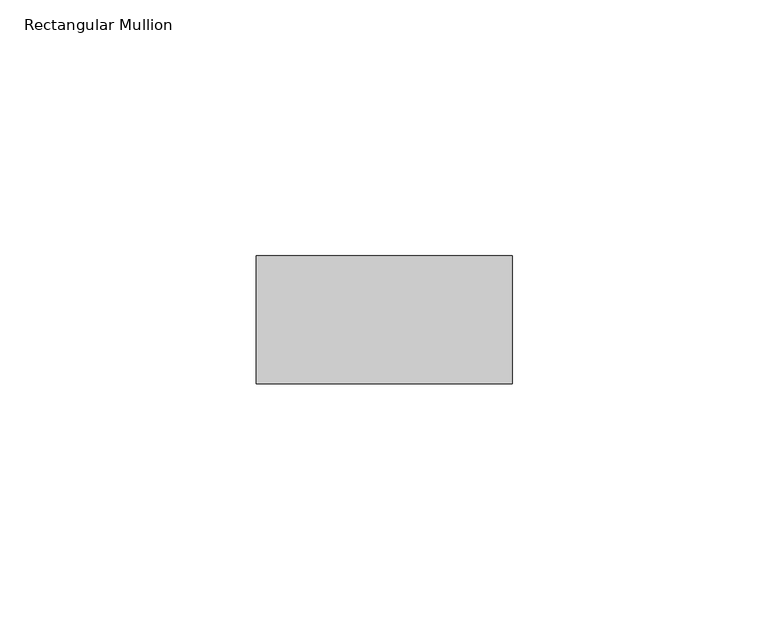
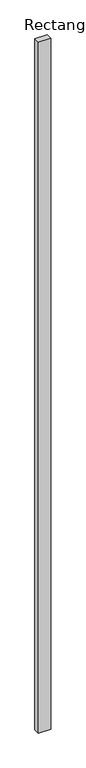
"""IFC4 building model written with IfcOpenShell, lengths in millimetres: member geometry, Rectangular Mullion : Batten_Aluminium_Modinex_AluBatten_50x25_AfricanEbony."""

from ifc_helpers import new_model, si_unit, frame, origin, place, context, project, spatial, polyline, outline, extrude, source, transform, mapped, element, save


def rectangular_mullion_114f6a8f(model_context):
    return source(origin(), model_context, "Body", "SweptSolid", [
        extrude(outline(polyline([(25.0, 25.0), (25.0, 0.0), (-25.0, 0.0), (-25.0, 25.0), (25.0, 25.0)])), frame((0.0, 0.0, -3000.0), z_axis=(0.0, 0.0, 1.0), x_axis=(1.0, 0.0, 0.0)), (0.0, 0.0, 1.0), 3000.0),
    ])


if __name__ == "__main__":
    model = new_model("IFC4")
    model_context = context("Model", 3, world=origin())
    ifc_project = project(units=[si_unit("LENGTHUNIT", "METRE", prefix="MILLI")], contexts=[model_context])
    site = spatial("IfcSite", under=ifc_project)
    building = spatial("IfcBuilding", under=site)
    placement = place(None, origin())
    rectangular_mullion_shape = rectangular_mullion_114f6a8f(model_context)
    element("IfcMember", 1, ObjectType="Rectangular Mullion : Batten_Aluminium_Modinex_AluBatten_50x25_AfricanEbony", at=placement, inside=building, context=model_context, shape_type="MappedRepresentation", body=[
        mapped(rectangular_mullion_shape, transform((0.0, 0.0, 0.0), x_axis=(1.0, 0.0, 0.0), y_axis=(0.0, 1.0, 0.0), z_axis=(0.0, 0.0, 1.0))),
    ])
    save(model, "model.ifc")
